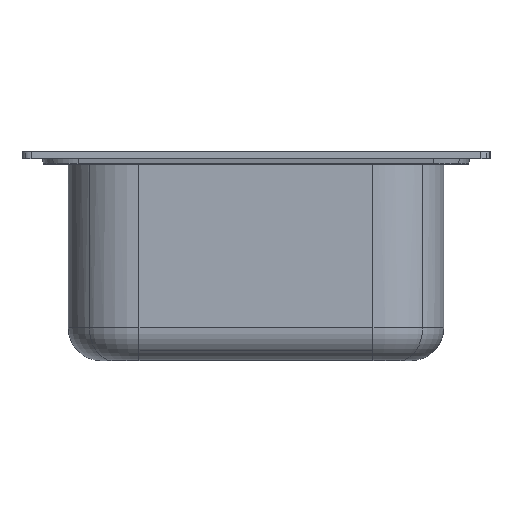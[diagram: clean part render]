
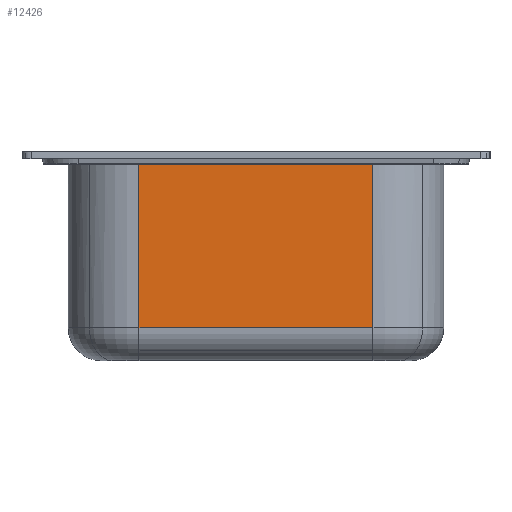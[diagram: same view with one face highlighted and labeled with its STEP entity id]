
A CAD part, left-side view. The second image highlights one B-rep face of the part: STEP entity #12426.
In plain terms, the highlighted planar face has unit normal (-1, 0, 0).
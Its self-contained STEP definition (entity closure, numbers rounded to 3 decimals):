
#11444=CARTESIAN_POINT('Line Origine',(809.3,0.,6.4)) ;
#11448=CARTESIAN_POINT('Vertex',(809.3,-125.,6.4)) ;
#11450=CARTESIAN_POINT('Vertex',(809.3,125.,6.4)) ;
#12396=CARTESIAN_POINT('Axis2P3D Location',(809.3,125.,6.4)) ;
#12401=CARTESIAN_POINT('Line Origine',(809.3,0.,-168.6)) ;
#12405=CARTESIAN_POINT('Vertex',(809.3,-125.,-168.6)) ;
#12407=CARTESIAN_POINT('Vertex',(809.3,125.,-168.6)) ;
#12410=CARTESIAN_POINT('Line Origine',(809.3,-125.,-81.1)) ;
#12415=CARTESIAN_POINT('Line Origine',(809.3,125.,-81.1)) ;
#11445=DIRECTION('Vector Direction',(0.,-1.,0.)) ;
#12397=DIRECTION('Axis2P3D Direction',(1.,0.,0.)) ;
#12398=DIRECTION('Axis2P3D XDirection',(0.,-1.,0.)) ;
#12402=DIRECTION('Vector Direction',(0.,-1.,0.)) ;
#12411=DIRECTION('Vector Direction',(0.,0.,-1.)) ;
#12416=DIRECTION('Vector Direction',(0.,0.,-1.)) ;
#12399=AXIS2_PLACEMENT_3D('Plane Axis2P3D',#12396,#12397,#12398) ;
#12421=ORIENTED_EDGE('',*,*,#12409,.F.) ;
#12422=ORIENTED_EDGE('',*,*,#12414,.F.) ;
#12423=ORIENTED_EDGE('',*,*,#11452,.T.) ;
#12424=ORIENTED_EDGE('',*,*,#12419,.T.) ;
#11446=VECTOR('Line Direction',#11445,1.) ;
#12403=VECTOR('Line Direction',#12402,1.) ;
#12412=VECTOR('Line Direction',#12411,1.) ;
#12417=VECTOR('Line Direction',#12416,1.) ;
#12426=ADVANCED_FACE('Vasca-45.2',(#12425),#12400,.F.) ;
#11452=EDGE_CURVE('',#11449,#11451,#11447,.F.) ;
#12409=EDGE_CURVE('',#12406,#12408,#12404,.F.) ;
#12414=EDGE_CURVE('',#11449,#12406,#12413,.T.) ;
#12419=EDGE_CURVE('',#11451,#12408,#12418,.T.) ;
#12420=EDGE_LOOP('',(#12421,#12422,#12423,#12424)) ;
#12425=FACE_OUTER_BOUND('',#12420,.T.) ;
#11447=LINE('Line',#11444,#11446) ;
#12404=LINE('Line',#12401,#12403) ;
#12413=LINE('Line',#12410,#12412) ;
#12418=LINE('Line',#12415,#12417) ;
#12400=PLANE('',#12399) ;
#11449=VERTEX_POINT('',#11448) ;
#11451=VERTEX_POINT('',#11450) ;
#12406=VERTEX_POINT('',#12405) ;
#12408=VERTEX_POINT('',#12407) ;
